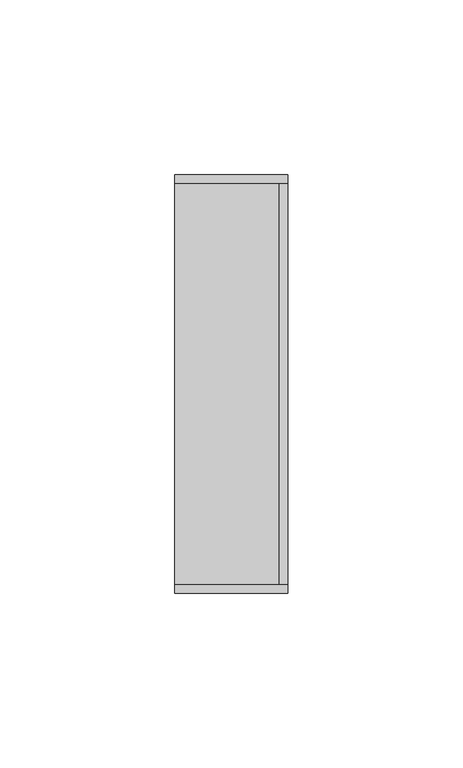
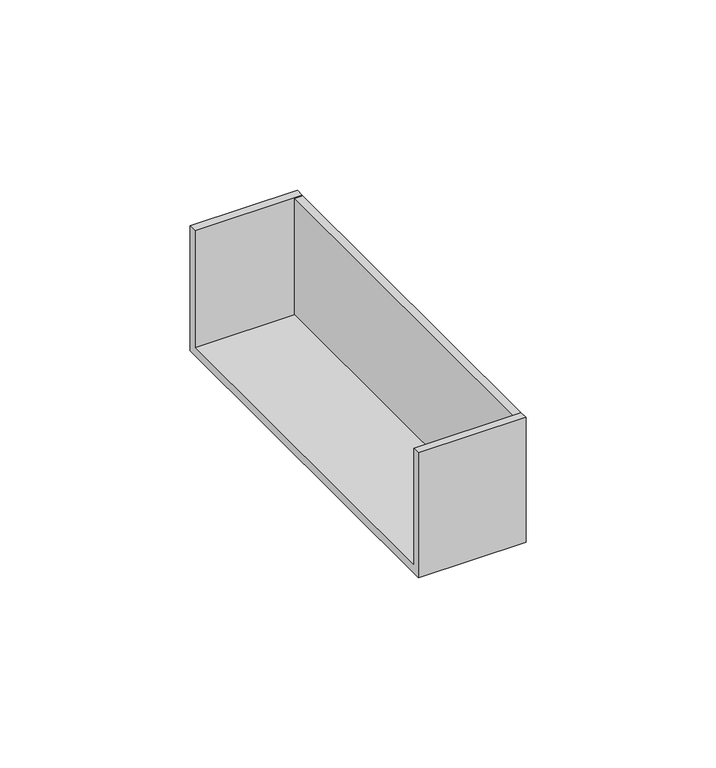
"""IFC4 building model written with IfcOpenShell, lengths in millimetres: cable carrier fitting geometry, КНС_ЗаглушкаТорцеваяLAN_ILC_DKC : Заглушка торцевая LAN_DKC."""

from ifc_helpers import new_model, si_unit, frame, origin, place, context, project, spatial, polyline, outline, extrude, source, transform, mapped, element, save


def cable_carrier_fitting_d6fbcbdb(model_context):
    return source(origin(), model_context, "Body", "SweptSolid", [
        extrude(outline(polyline([(60.0, -20.0), (-60.0, -20.0), (-60.0, 20.0), (-57.5, 20.0), (-57.5, -17.5), (57.5, -17.5), (57.5, 20.0), (60.0, 20.0), (60.0, -20.0)])), frame((-32.5, 0.0, 0.0), z_axis=(1.0, 0.0, 0.0), x_axis=(0.0, 1.0, 0.0)), (0.0, 0.0, 1.0), 32.5),
        extrude(outline(polyline([(0.0, 57.5), (0.0, -57.5), (-2.5, -57.5), (-2.5, 57.5), (0.0, 57.5)])), frame((0.0, 0.0, -20.0), z_axis=(0.0, 0.0, 1.0), x_axis=(1.0, 0.0, 0.0)), (0.0, 0.0, 1.0), 40.0),
    ])


if __name__ == "__main__":
    model = new_model("IFC4")
    model_context = context("Model", 3, world=origin())
    ifc_project = project(units=[si_unit("LENGTHUNIT", "METRE", prefix="MILLI")], contexts=[model_context])
    site = spatial("IfcSite", under=ifc_project)
    building = spatial("IfcBuilding", under=site)
    placement = place(None, origin())
    cable_carrier_fitting_shape = cable_carrier_fitting_d6fbcbdb(model_context)
    element("IfcCableCarrierFitting", 1, ObjectType="КНС_ЗаглушкаТорцеваяLAN_ILC_DKC : Заглушка торцевая LAN_DKC", at=placement, inside=building, context=model_context, shape_type="MappedRepresentation", body=[
        mapped(cable_carrier_fitting_shape, transform((0.0, 0.0, 0.0), x_axis=(1.0, 0.0, 0.0), y_axis=(0.0, 1.0, 0.0), z_axis=(0.0, 0.0, 1.0))),
    ])
    save(model, "model.ifc")
